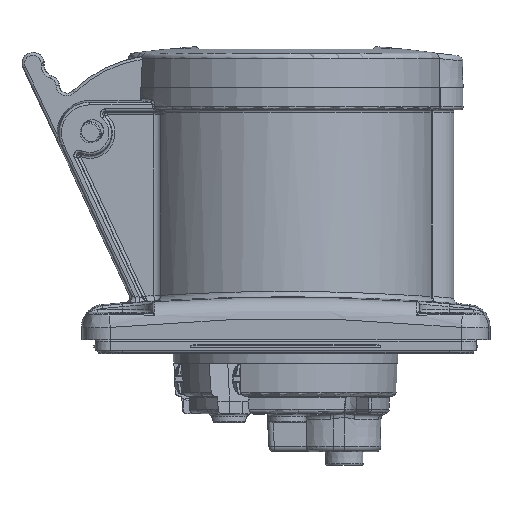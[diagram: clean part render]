
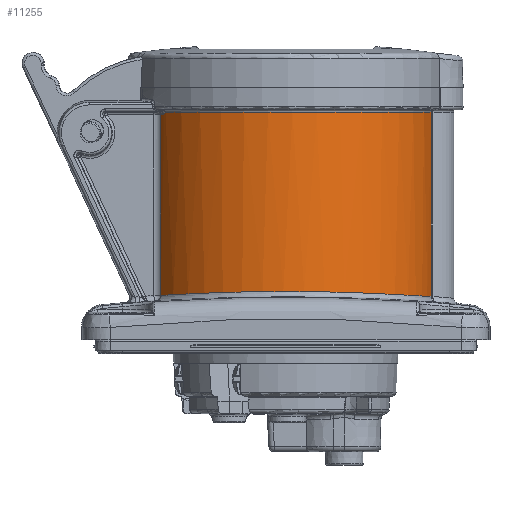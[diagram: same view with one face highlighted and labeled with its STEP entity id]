
A CAD part, left-side view. The second image highlights one B-rep face of the part: STEP entity #11255.
In plain terms, the highlighted cylindrical face has radius 27.25 mm (diameter 54.5 mm), a partial arc.
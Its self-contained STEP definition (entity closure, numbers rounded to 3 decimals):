
#2172=CYLINDRICAL_SURFACE('',#65307,27.25);
#5246=FACE_OUTER_BOUND('',#20726,.T.);
#8048=CIRCLE('',#65301,27.25);
#11255=ADVANCED_FACE('',(#5246),#2172,.T.);
#13839=ELLIPSE('',#65299,27.358,27.25);
#16427=B_SPLINE_CURVE_WITH_KNOTS('',3,(#151656,#151657,#151658,#151659,
#151660,#151661,#151662,#151663,#151664,#151665),.UNSPECIFIED.,.F.,.F.,
(4,3,3,4),(0.,0.123,0.698,1.),.UNSPECIFIED.);
#16428=B_SPLINE_CURVE_WITH_KNOTS('',3,(#151699,#151700,#151701,#151702,
#151703,#151704,#151705,#151706,#151707,#151708,#151709,#151710),
 .UNSPECIFIED.,.F.,.F.,(4,2,2,2,2,4),(0.,0.25,0.5,0.75,0.875,1.),
 .UNSPECIFIED.);
#16429=B_SPLINE_CURVE_WITH_KNOTS('',3,(#151713,#151714,#151715,#151716),
 .UNSPECIFIED.,.F.,.F.,(4,4),(0.,1.),.UNSPECIFIED.);
#20726=EDGE_LOOP('',(#35745,#35746,#35747,#35748,#35749,#35750,#35751));
#35745=ORIENTED_EDGE('',*,*,#52519,.T.);
#35746=ORIENTED_EDGE('',*,*,#52520,.T.);
#35747=ORIENTED_EDGE('',*,*,#52515,.T.);
#35748=ORIENTED_EDGE('',*,*,#52514,.T.);
#35749=ORIENTED_EDGE('',*,*,#52513,.T.);
#35750=ORIENTED_EDGE('',*,*,#52510,.T.);
#35751=ORIENTED_EDGE('',*,*,#52521,.T.);
#44234=VERTEX_POINT('',#150680);
#44303=VERTEX_POINT('',#151610);
#44306=VERTEX_POINT('',#151630);
#44307=VERTEX_POINT('',#151632);
#44308=VERTEX_POINT('',#151681);
#44310=VERTEX_POINT('',#151711);
#44311=VERTEX_POINT('',#151712);
#52510=EDGE_CURVE('',#44307,#44306,#13839,.T.);
#52513=EDGE_CURVE('',#44234,#44307,#16427,.T.);
#52514=EDGE_CURVE('',#44303,#44234,#8048,.T.);
#52515=EDGE_CURVE('',#44308,#44303,#56423,.T.);
#52519=EDGE_CURVE('',#44310,#44311,#16428,.T.);
#52520=EDGE_CURVE('',#44311,#44308,#16429,.T.);
#52521=EDGE_CURVE('',#44306,#44310,#56424,.T.);
#56423=LINE('',#151680,#59592);
#56424=LINE('',#151717,#59593);
#59592=VECTOR('',#78750,1.);
#59593=VECTOR('',#78759,1.);
#65299=AXIS2_PLACEMENT_3D('',#151631,#78742,#78743);
#65301=AXIS2_PLACEMENT_3D('',#151678,#78746,#78747);
#65307=AXIS2_PLACEMENT_3D('',#151718,#78760,#78761);
#78742=DIRECTION('',(-0.089,0.,-0.996));
#78743=DIRECTION('',(0.996,0.,-0.089));
#78746=DIRECTION('',(0.,0.,-1.));
#78747=DIRECTION('',(1.,0.,0.));
#78750=DIRECTION('',(0.,0.,1.));
#78759=DIRECTION('',(0.,0.,-1.));
#78760=DIRECTION('',(0.,0.,-1.));
#78761=DIRECTION('',(-0.199,0.98,0.));
#150680=CARTESIAN_POINT('',(-15.96,22.087,-2.3));
#151610=CARTESIAN_POINT('',(-5.581,-26.672,-2.3));
#151630=CARTESIAN_POINT('',(-14.691,22.951,-2.693));
#151631=CARTESIAN_POINT('',(0.,0.,-4.002));
#151632=CARTESIAN_POINT('',(-15.306,22.545,-2.638));
#151656=CARTESIAN_POINT('',(-15.96,22.087,-2.3));
#151657=CARTESIAN_POINT('',(-15.939,22.103,-2.325));
#151658=CARTESIAN_POINT('',(-15.916,22.119,-2.349));
#151659=CARTESIAN_POINT('',(-15.893,22.135,-2.371));
#151660=CARTESIAN_POINT('',(-15.785,22.213,-2.474));
#151661=CARTESIAN_POINT('',(-15.657,22.303,-2.549));
#151662=CARTESIAN_POINT('',(-15.524,22.396,-2.593));
#151663=CARTESIAN_POINT('',(-15.453,22.445,-2.616));
#151664=CARTESIAN_POINT('',(-15.38,22.495,-2.631));
#151665=CARTESIAN_POINT('',(-15.306,22.545,-2.638));
#151678=CARTESIAN_POINT('',(0.,0.,-2.3));
#151680=CARTESIAN_POINT('',(-5.581,-26.672,-9.8));
#151681=CARTESIAN_POINT('',(-5.581,-26.672,-36.075));
#151699=CARTESIAN_POINT('',(-14.691,22.951,-35.89));
#151700=CARTESIAN_POINT('',(-19.259,20.026,-35.719));
#151701=CARTESIAN_POINT('',(-22.847,15.791,-35.487));
#151702=CARTESIAN_POINT('',(-27.129,5.949,-35.189));
#151703=CARTESIAN_POINT('',(-27.768,0.339,-35.133));
#151704=CARTESIAN_POINT('',(-25.836,-10.183,-35.279));
#151705=CARTESIAN_POINT('',(-23.244,-15.199,-35.477));
#151706=CARTESIAN_POINT('',(-17.625,-20.955,-35.772));
#151707=CARTESIAN_POINT('',(-15.466,-22.597,-35.869));
#151708=CARTESIAN_POINT('',(-10.744,-25.187,-36.022));
#151709=CARTESIAN_POINT('',(-8.237,-26.117,-36.076));
#151710=CARTESIAN_POINT('',(-5.581,-26.672,-36.099));
#151711=CARTESIAN_POINT('',(-14.691,22.951,-35.89));
#151712=CARTESIAN_POINT('',(-5.581,-26.672,-36.099));
#151713=CARTESIAN_POINT('',(-5.581,-26.672,-36.099));
#151714=CARTESIAN_POINT('',(-5.581,-26.672,-36.091));
#151715=CARTESIAN_POINT('',(-5.581,-26.672,-36.083));
#151716=CARTESIAN_POINT('',(-5.581,-26.672,-36.075));
#151717=CARTESIAN_POINT('',(-14.691,22.951,-17.646));
#151718=CARTESIAN_POINT('',(0.,0.,-9.8));
